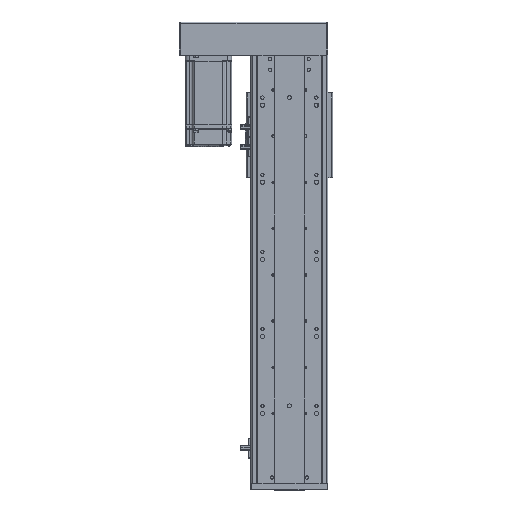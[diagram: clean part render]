
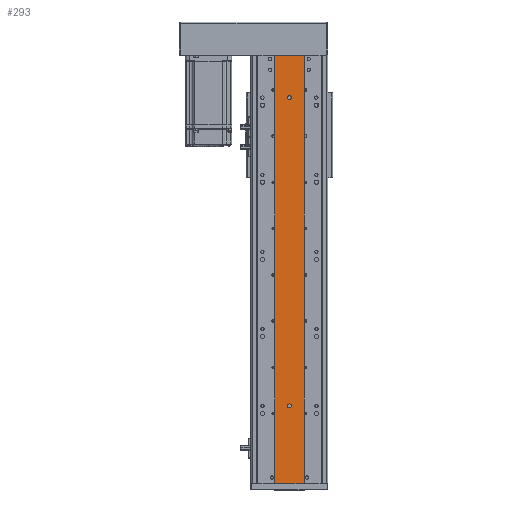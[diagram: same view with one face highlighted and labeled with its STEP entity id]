
A CAD part, top view. The second image highlights one B-rep face of the part: STEP entity #293.
In plain terms, the highlighted planar face has unit normal (0, 0, 1).
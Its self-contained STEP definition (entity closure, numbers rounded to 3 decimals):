
#293 = ADVANCED_FACE ( 'NONE', ( #43332, #43341, #43304 ), #13727, .F. ) ;
#2588 = AXIS2_PLACEMENT_3D ( 'NONE', #13743, #13764, #13716 ) ;
#12114 = AXIS2_PLACEMENT_3D ( 'NONE', #23764, #23765, #23763 ) ;
#12127 = AXIS2_PLACEMENT_3D ( 'NONE', #23707, #23660, #23637 ) ;
#12520 = AXIS2_PLACEMENT_3D ( 'NONE', #39771, #39786, #39767 ) ;
#12525 = AXIS2_PLACEMENT_3D ( 'NONE', #39787, #39782, #39783 ) ;
#13716 = DIRECTION ( 'NONE',  ( -1., 0., 0. ) ) ;
#13727 = PLANE ( 'NONE',  #2588 ) ;
#13743 = CARTESIAN_POINT ( 'NONE',  ( -10645.079, 556., -17040.86 ) ) ;
#13764 = DIRECTION ( 'NONE',  ( 0., 0., -1. ) ) ;
#20684 = EDGE_LOOP ( 'NONE', ( #42594, #29619 ) ) ;
#20732 = EDGE_LOOP ( 'NONE', ( #42687, #42664 ) ) ;
#20736 = EDGE_LOOP ( 'NONE', ( #29621, #29633, #29588, #29591 ) ) ;
#23637 = DIRECTION ( 'NONE',  ( -1., 0., 0. ) ) ;
#23660 = DIRECTION ( 'NONE',  ( 0., 0., -1. ) ) ;
#23707 = CARTESIAN_POINT ( 'NONE',  ( -10626.079, 101., -17040.86 ) ) ;
#23763 = DIRECTION ( 'NONE',  ( -1., 0., 0. ) ) ;
#23764 = CARTESIAN_POINT ( 'NONE',  ( -10626.079, 501., -17040.86 ) ) ;
#23765 = DIRECTION ( 'NONE',  ( 0., 0., -1. ) ) ;
#24256 = CIRCLE ( 'NONE', #12127, 2.5 ) ;
#24324 = CIRCLE ( 'NONE', #12114, 2.5 ) ;
#27075 = EDGE_CURVE ( 'NONE', #29756, #29770, #24256, .T. ) ;
#27143 = EDGE_CURVE ( 'NONE', #29665, #29837, #24324, .T. ) ;
#29588 = ORIENTED_EDGE ( 'NONE', *, *, #43810, .F. ) ;
#29591 = ORIENTED_EDGE ( 'NONE', *, *, #43840, .T. ) ;
#29619 = ORIENTED_EDGE ( 'NONE', *, *, #43800, .T. ) ;
#29621 = ORIENTED_EDGE ( 'NONE', *, *, #43814, .T. ) ;
#29633 = ORIENTED_EDGE ( 'NONE', *, *, #43794, .F. ) ;
#29665 = VERTEX_POINT ( 'NONE', #39076 ) ;
#29756 = VERTEX_POINT ( 'NONE', #39148 ) ;
#29770 = VERTEX_POINT ( 'NONE', #39204 ) ;
#29837 = VERTEX_POINT ( 'NONE', #39220 ) ;
#36935 = CARTESIAN_POINT ( 'NONE',  ( -10607.079, 0., -17040.86 ) ) ;
#36944 = CARTESIAN_POINT ( 'NONE',  ( -10645.079, 0., -17040.86 ) ) ;
#36970 = CARTESIAN_POINT ( 'NONE',  ( -10607.079, 556., -17040.86 ) ) ;
#36972 = CARTESIAN_POINT ( 'NONE',  ( -10645.079, 556., -17040.86 ) ) ;
#39076 = CARTESIAN_POINT ( 'NONE',  ( -10623.579, 501., -17040.86 ) ) ;
#39148 = CARTESIAN_POINT ( 'NONE',  ( -10623.579, 101., -17040.86 ) ) ;
#39204 = CARTESIAN_POINT ( 'NONE',  ( -10628.579, 101., -17040.86 ) ) ;
#39220 = CARTESIAN_POINT ( 'NONE',  ( -10628.579, 501., -17040.86 ) ) ;
#39767 = DIRECTION ( 'NONE',  ( -1., 0., 0. ) ) ;
#39771 = CARTESIAN_POINT ( 'NONE',  ( -10626.079, 101., -17040.86 ) ) ;
#39777 = CARTESIAN_POINT ( 'NONE',  ( -10607.079, 556., -17040.86 ) ) ;
#39782 = DIRECTION ( 'NONE',  ( 0., 0., -1. ) ) ;
#39783 = DIRECTION ( 'NONE',  ( -1., 0., 0. ) ) ;
#39785 = DIRECTION ( 'NONE',  ( 0., -1., 0. ) ) ;
#39786 = DIRECTION ( 'NONE',  ( 0., 0., -1. ) ) ;
#39787 = CARTESIAN_POINT ( 'NONE',  ( -10626.079, 501., -17040.86 ) ) ;
#39792 = CARTESIAN_POINT ( 'NONE',  ( -10645.079, 556., -17040.86 ) ) ;
#39813 = DIRECTION ( 'NONE',  ( 1., 0., 0. ) ) ;
#39815 = DIRECTION ( 'NONE',  ( 1., 0., 0. ) ) ;
#39826 = CARTESIAN_POINT ( 'NONE',  ( -10645.079, 0., -17040.86 ) ) ;
#39876 = CARTESIAN_POINT ( 'NONE',  ( -10645.079, 556., -17040.86 ) ) ;
#39883 = DIRECTION ( 'NONE',  ( 0., -1., 0. ) ) ;
#40168 = CIRCLE ( 'NONE', #12525, 2.5 ) ;
#40169 = CIRCLE ( 'NONE', #12520, 2.5 ) ;
#40186 = VECTOR ( 'NONE', #39785, 1000. ) ;
#40200 = LINE ( 'NONE', #39777, #40186 ) ;
#40206 = VECTOR ( 'NONE', #39813, 1000. ) ;
#40222 = LINE ( 'NONE', #39826, #40255 ) ;
#40226 = LINE ( 'NONE', #39876, #40229 ) ;
#40229 = VECTOR ( 'NONE', #39883, 1000. ) ;
#40253 = LINE ( 'NONE', #39792, #40206 ) ;
#40255 = VECTOR ( 'NONE', #39815, 1000. ) ;
#42594 = ORIENTED_EDGE ( 'NONE', *, *, #27075, .T. ) ;
#42664 = ORIENTED_EDGE ( 'NONE', *, *, #43798, .T. ) ;
#42687 = ORIENTED_EDGE ( 'NONE', *, *, #27143, .T. ) ;
#43304 = FACE_OUTER_BOUND ( 'NONE', #20736, .T. ) ;
#43332 = FACE_BOUND ( 'NONE', #20732, .T. ) ;
#43341 = FACE_BOUND ( 'NONE', #20684, .T. ) ;
#43794 = EDGE_CURVE ( 'NONE', #48459, #48441, #40200, .T. ) ;
#43798 = EDGE_CURVE ( 'NONE', #29837, #29665, #40168, .T. ) ;
#43800 = EDGE_CURVE ( 'NONE', #29770, #29756, #40169, .T. ) ;
#43810 = EDGE_CURVE ( 'NONE', #48471, #48459, #40253, .T. ) ;
#43814 = EDGE_CURVE ( 'NONE', #48444, #48441, #40222, .T. ) ;
#43840 = EDGE_CURVE ( 'NONE', #48471, #48444, #40226, .T. ) ;
#48441 = VERTEX_POINT ( 'NONE', #36935 ) ;
#48444 = VERTEX_POINT ( 'NONE', #36944 ) ;
#48459 = VERTEX_POINT ( 'NONE', #36970 ) ;
#48471 = VERTEX_POINT ( 'NONE', #36972 ) ;
